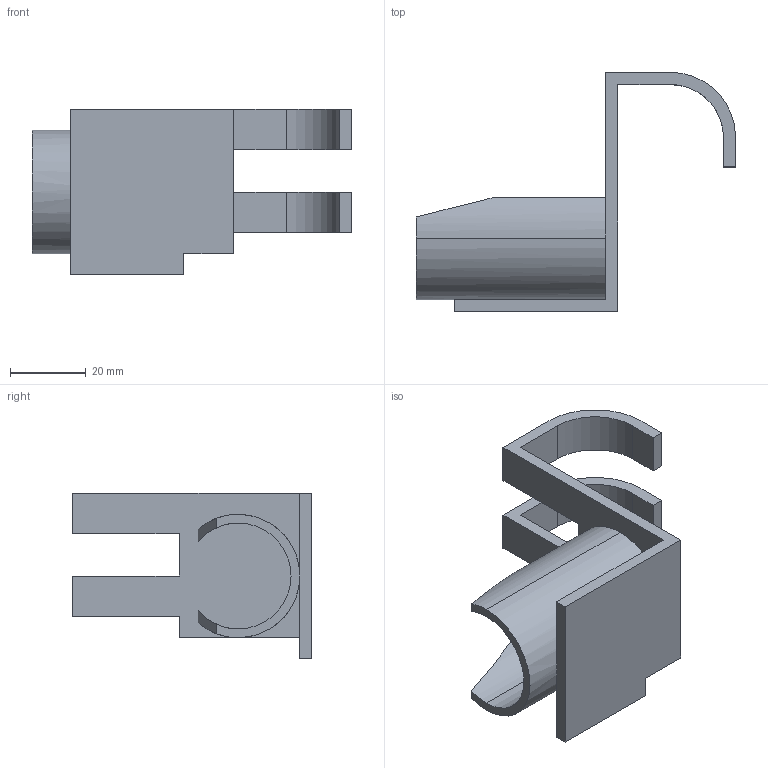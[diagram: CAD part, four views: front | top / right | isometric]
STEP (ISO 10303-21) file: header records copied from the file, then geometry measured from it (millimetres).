
FILE_DESCRIPTION (( 'STEP AP214' ), '1' );
FILE_NAME ('JB-513.step', '2023-12-26T01:15:04', ( 'catia' ), ( 'HP Inc.' ), 'SwSTEP 2.0', 'SolidWorks 2021', '' );
FILE_SCHEMA (( 'AUTOMOTIVE_DESIGN' ));
Length unit declared in the file: millimetre
Products named in the file (1): JB-513
Bounding box: 84.4 x 63.2 x 43.8 mm (x, y, z)
Volume: 22686 mm3; surface area: 17824 mm2
Topology: 1 solids, 1 shells, 41 faces, 115 edges, 76 vertices
Faces by surface type: plane 31, cylinder 10
Entity records: 1349 total; most frequent: CARTESIAN_POINT 245, ORIENTED_EDGE 230, DIRECTION 217, EDGE_CURVE 115, VECTOR 89, LINE 89, VERTEX_POINT 76, AXIS2_PLACEMENT_3D 64
